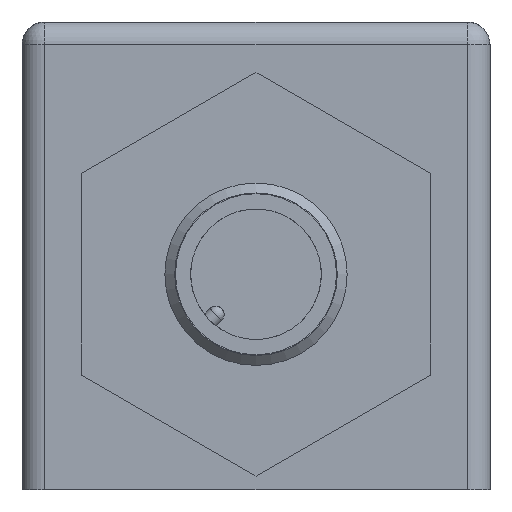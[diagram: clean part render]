
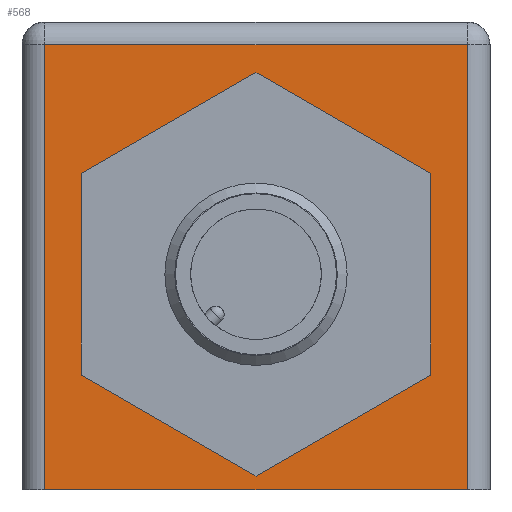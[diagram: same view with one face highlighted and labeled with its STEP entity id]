
A CAD part, front view. The second image highlights one B-rep face of the part: STEP entity #568.
In plain terms, the highlighted planar face has unit normal (0, -1, 0).
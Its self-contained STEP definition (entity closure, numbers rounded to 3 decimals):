
#479=CARTESIAN_POINT('',(0.0,-51.5,18.6));
#480=DIRECTION('',(0.0,1.0,0.0));
#481=DIRECTION('',(0.0,0.0,1.0));
#482=AXIS2_PLACEMENT_3D('',#479,#480,#481);
#483=PLANE('',#482);
#484=CARTESIAN_POINT('',(-13.9,-51.5,-12.2));
#485=VERTEX_POINT('',#484);
#486=CARTESIAN_POINT('',(13.9,-51.5,-12.2));
#487=VERTEX_POINT('',#486);
#488=CARTESIAN_POINT('',(-13.9,-51.5,-12.2));
#489=DIRECTION('',(1.0,0.0,0.0));
#490=VECTOR('',#489,27.8);
#491=LINE('',#488,#490);
#492=EDGE_CURVE('',#485,#487,#491,.T.);
#493=ORIENTED_EDGE('',*,*,#492,.T.);
#494=CARTESIAN_POINT('',(13.9,-51.5,17.1));
#495=VERTEX_POINT('',#494);
#496=CARTESIAN_POINT('',(13.9,-51.5,17.1));
#497=DIRECTION('',(0.0,0.0,-1.0));
#498=VECTOR('',#497,29.3);
#499=LINE('',#496,#498);
#500=EDGE_CURVE('',#495,#487,#499,.T.);
#501=ORIENTED_EDGE('',*,*,#500,.F.);
#502=CARTESIAN_POINT('',(-13.9,-51.5,17.1));
#503=VERTEX_POINT('',#502);
#504=CARTESIAN_POINT('',(13.9,-51.5,17.1));
#505=DIRECTION('',(-1.0,0.0,0.0));
#506=VECTOR('',#505,27.8);
#507=LINE('',#504,#506);
#508=EDGE_CURVE('',#495,#503,#507,.T.);
#509=ORIENTED_EDGE('',*,*,#508,.T.);
#510=CARTESIAN_POINT('',(-13.9,-51.5,17.1));
#511=DIRECTION('',(0.0,0.0,-1.0));
#512=VECTOR('',#511,29.3);
#513=LINE('',#510,#512);
#514=EDGE_CURVE('',#503,#485,#513,.T.);
#515=ORIENTED_EDGE('',*,*,#514,.T.);
#516=EDGE_LOOP('',(#493,#501,#509,#515));
#517=FACE_OUTER_BOUND('',#516,.T.);
#518=CARTESIAN_POINT('',(11.5,-51.5,8.64));
#519=VERTEX_POINT('',#518);
#520=CARTESIAN_POINT('',(0.,-51.5,15.279));
#521=VERTEX_POINT('',#520);
#522=CARTESIAN_POINT('',(11.5,-51.5,8.64));
#523=DIRECTION('',(-0.866,0.0,0.5));
#524=VECTOR('',#523,13.279);
#525=LINE('',#522,#524);
#526=EDGE_CURVE('',#519,#521,#525,.T.);
#527=ORIENTED_EDGE('',*,*,#526,.F.);
#528=CARTESIAN_POINT('',(11.5,-51.5,-4.64));
#529=VERTEX_POINT('',#528);
#530=CARTESIAN_POINT('',(11.5,-51.5,-4.64));
#531=DIRECTION('',(0.0,0.0,1.0));
#532=VECTOR('',#531,13.279);
#533=LINE('',#530,#532);
#534=EDGE_CURVE('',#529,#519,#533,.T.);
#535=ORIENTED_EDGE('',*,*,#534,.F.);
#536=CARTESIAN_POINT('',(0.0,-51.5,-11.279));
#537=VERTEX_POINT('',#536);
#538=CARTESIAN_POINT('',(0.,-51.5,-11.279));
#539=DIRECTION('',(0.866,0.0,0.5));
#540=VECTOR('',#539,13.279);
#541=LINE('',#538,#540);
#542=EDGE_CURVE('',#537,#529,#541,.T.);
#543=ORIENTED_EDGE('',*,*,#542,.F.);
#544=CARTESIAN_POINT('',(-11.5,-51.5,-4.64));
#545=VERTEX_POINT('',#544);
#546=CARTESIAN_POINT('',(-11.5,-51.5,-4.64));
#547=DIRECTION('',(0.866,0.0,-0.5));
#548=VECTOR('',#547,13.279);
#549=LINE('',#546,#548);
#550=EDGE_CURVE('',#545,#537,#549,.T.);
#551=ORIENTED_EDGE('',*,*,#550,.F.);
#552=CARTESIAN_POINT('',(-11.5,-51.5,8.64));
#553=VERTEX_POINT('',#552);
#554=CARTESIAN_POINT('',(-11.5,-51.5,8.64));
#555=DIRECTION('',(0.0,0.0,-1.0));
#556=VECTOR('',#555,13.279);
#557=LINE('',#554,#556);
#558=EDGE_CURVE('',#553,#545,#557,.T.);
#559=ORIENTED_EDGE('',*,*,#558,.F.);
#560=CARTESIAN_POINT('',(0.,-51.5,15.279));
#561=DIRECTION('',(-0.866,0.0,-0.5));
#562=VECTOR('',#561,13.279);
#563=LINE('',#560,#562);
#564=EDGE_CURVE('',#521,#553,#563,.T.);
#565=ORIENTED_EDGE('',*,*,#564,.F.);
#566=EDGE_LOOP('',(#527,#535,#543,#551,#559,#565));
#567=FACE_BOUND('',#566,.T.);
#568=ADVANCED_FACE('',(#517,#567),#483,.F.);
